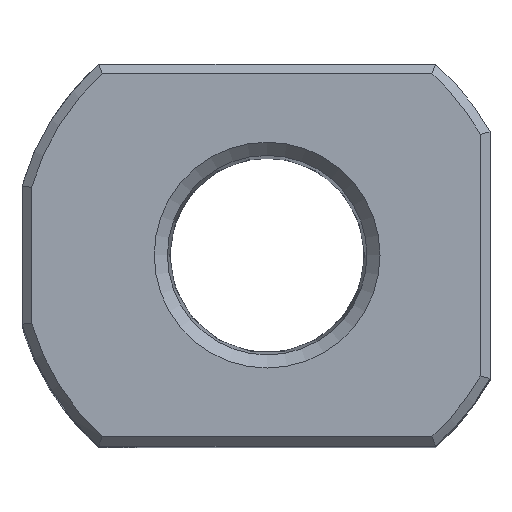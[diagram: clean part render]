
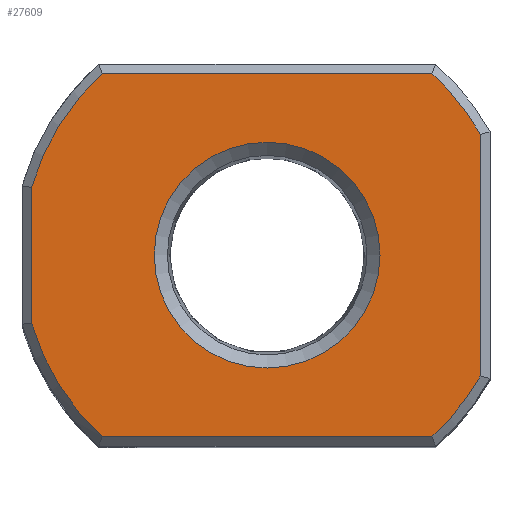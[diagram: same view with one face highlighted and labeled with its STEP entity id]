
A CAD part, top view. The second image highlights one B-rep face of the part: STEP entity #27609.
In plain terms, the highlighted planar face has unit normal (0, 0, 1).
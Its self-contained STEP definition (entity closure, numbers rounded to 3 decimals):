
#484=CIRCLE('',#28432,38.5);
#485=CIRCLE('',#28434,17.73);
#490=CIRCLE('',#28607,38.5);
#491=CIRCLE('',#28608,38.5);
#492=CIRCLE('',#28609,38.5);
#821=LINE('',#37602,#2555);
#900=LINE('',#38313,#2634);
#1289=LINE('',#40561,#3023);
#1291=LINE('',#40573,#3025);
#2555=VECTOR('',#29678,1000.);
#2634=VECTOR('',#29807,1000.);
#3023=VECTOR('',#30486,1000.);
#3025=VECTOR('',#30494,1000.);
#6459=ORIENTED_EDGE('',*,*,#10875,.T.);
#6460=ORIENTED_EDGE('',*,*,#10874,.T.);
#6461=ORIENTED_EDGE('',*,*,#11009,.T.);
#6462=ORIENTED_EDGE('',*,*,#11525,.T.);
#6463=ORIENTED_EDGE('',*,*,#11522,.T.);
#6464=ORIENTED_EDGE('',*,*,#11526,.T.);
#6465=ORIENTED_EDGE('',*,*,#11527,.T.);
#6466=ORIENTED_EDGE('',*,*,#11528,.T.);
#6467=ORIENTED_EDGE('',*,*,#10878,.T.);
#10874=EDGE_CURVE('',#13746,#13748,#484,.T.);
#10875=EDGE_CURVE('',#13749,#13749,#485,.F.);
#10878=EDGE_CURVE('',#13750,#13746,#821,.T.);
#11009=EDGE_CURVE('',#13748,#13818,#900,.T.);
#11522=EDGE_CURVE('',#14079,#14078,#1289,.T.);
#11525=EDGE_CURVE('',#13818,#14079,#490,.T.);
#11526=EDGE_CURVE('',#14078,#14081,#491,.T.);
#11527=EDGE_CURVE('',#14081,#14082,#1291,.T.);
#11528=EDGE_CURVE('',#14082,#13750,#492,.T.);
#13746=VERTEX_POINT('',#37582);
#13748=VERTEX_POINT('',#37589);
#13749=VERTEX_POINT('',#37593);
#13750=VERTEX_POINT('',#37599);
#13818=VERTEX_POINT('',#38312);
#14078=VERTEX_POINT('',#40560);
#14079=VERTEX_POINT('',#40562);
#14081=VERTEX_POINT('',#40572);
#14082=VERTEX_POINT('',#40574);
#16368=EDGE_LOOP('',(#6459));
#16369=EDGE_LOOP('',(#6460,#6461,#6462,#6463,#6464,#6465,#6466,#6467));
#17691=FACE_BOUND('',#16368,.T.);
#17692=FACE_BOUND('',#16369,.T.);
#18699=PLANE('',#28606);
#27609=ADVANCED_FACE('',(#17691,#17692),#18699,.T.);
#28432=AXIS2_PLACEMENT_3D('',#37590,#29669,#29670);
#28434=AXIS2_PLACEMENT_3D('',#37592,#29673,#29674);
#28606=AXIS2_PLACEMENT_3D('',#40569,#30488,#30489);
#28607=AXIS2_PLACEMENT_3D('',#40570,#30490,#30491);
#28608=AXIS2_PLACEMENT_3D('',#40571,#30492,#30493);
#28609=AXIS2_PLACEMENT_3D('',#40575,#30495,#30496);
#29669=DIRECTION('',(0.,0.,1.));
#29670=DIRECTION('',(1.,0.,0.));
#29673=DIRECTION('',(0.,0.,1.));
#29674=DIRECTION('',(1.,0.,0.));
#29678=DIRECTION('',(0.,1.,0.));
#29807=DIRECTION('',(-1.,0.,0.));
#30486=DIRECTION('',(0.,-1.,0.));
#30488=DIRECTION('',(0.,0.,1.));
#30489=DIRECTION('',(1.,0.,0.));
#30490=DIRECTION('',(0.,0.,1.));
#30491=DIRECTION('',(1.,0.,0.));
#30492=DIRECTION('',(0.,0.,1.));
#30493=DIRECTION('',(1.,0.,0.));
#30494=DIRECTION('',(1.,0.,0.));
#30495=DIRECTION('',(0.,0.,1.));
#30496=DIRECTION('',(1.,0.,0.));
#37582=CARTESIAN_POINT('',(33.5,18.974,0.));
#37589=CARTESIAN_POINT('',(25.884,28.5,0.));
#37590=CARTESIAN_POINT('',(0.,0.,0.));
#37592=CARTESIAN_POINT('',(0.,0.,0.));
#37593=CARTESIAN_POINT('',(17.73,0.,0.));
#37599=CARTESIAN_POINT('',(33.5,-18.974,0.));
#37602=CARTESIAN_POINT('',(33.5,0.,0.));
#38312=CARTESIAN_POINT('',(-25.884,28.5,0.));
#38313=CARTESIAN_POINT('',(0.,28.5,0.));
#40560=CARTESIAN_POINT('',(-37.,-10.642,0.));
#40561=CARTESIAN_POINT('',(-37.,0.,0.));
#40562=CARTESIAN_POINT('',(-37.,10.642,0.));
#40569=CARTESIAN_POINT('',(0.,0.,0.));
#40570=CARTESIAN_POINT('',(0.,0.,0.));
#40571=CARTESIAN_POINT('',(0.,0.,0.));
#40572=CARTESIAN_POINT('',(-25.884,-28.5,0.));
#40573=CARTESIAN_POINT('',(0.,-28.5,0.));
#40574=CARTESIAN_POINT('',(25.884,-28.5,0.));
#40575=CARTESIAN_POINT('',(0.,0.,0.));
